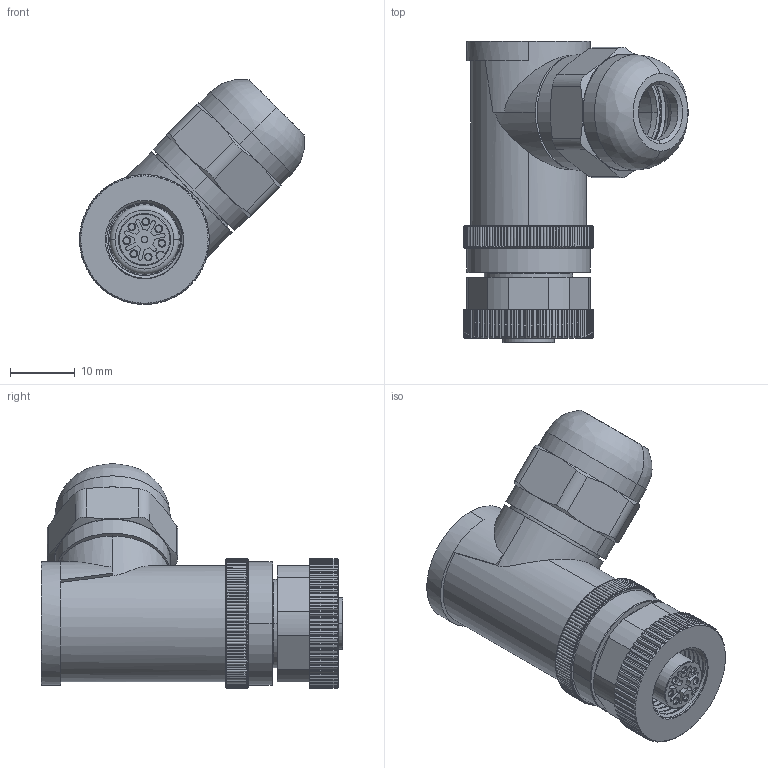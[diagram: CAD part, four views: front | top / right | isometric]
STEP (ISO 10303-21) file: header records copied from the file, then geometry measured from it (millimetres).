
FILE_DESCRIPTION((''),'2;1');
FILE_NAME('XC-M12P-RWK-PG9','2025-06-23T14:00:24',('lyj'),(''),'CREO PARAMETRIC BY PTC INC, 2019010','CREO PARAMETRIC BY PTC INC, 2019010','');
FILE_SCHEMA(('CONFIG_CONTROL_DESIGN'));
Length unit declared in the file: millimetre
Products named in the file (1): XC-M12P-RWK-PG9
Bounding box: 34.66 x 46.5 x 34.66 mm (x, y, z)
Volume: 10612.3 mm3; surface area: 13717.2 mm2
Topology: 1 solids, 25 shells, 2050 faces, 5456 edges, 3515 vertices
Faces by surface type: cylinder 963, plane 516, cone 399, bspline 87, extrusion 57, torus 28
Entity records: 99408 total; most frequent: CARTESIAN_POINT 50282, ORIENTED_EDGE 10912, DIRECTION 9452, EDGE_CURVE 5456, AXIS2_PLACEMENT_3D 3726, VERTEX_POINT 3515, EDGE_LOOP 2181, FACE_OUTER_BOUND 2050
